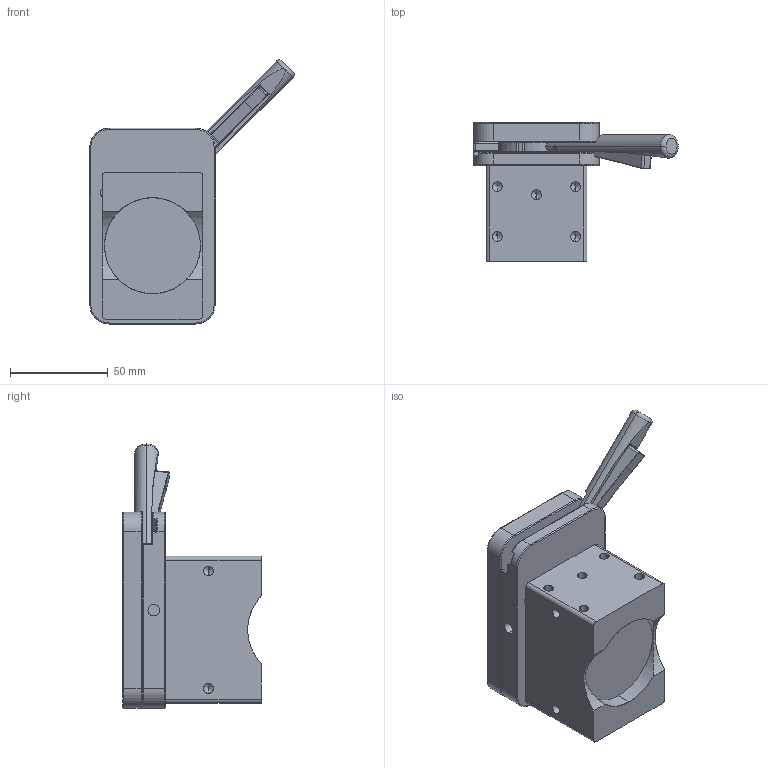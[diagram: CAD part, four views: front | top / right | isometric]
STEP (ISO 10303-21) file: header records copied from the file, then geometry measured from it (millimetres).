
FILE_DESCRIPTION (( 'STEP AP214' ), '1' );
FILE_NAME ('8100580_p.STEP', '2018-11-02T14:11:47', ( '' ), ( '' ), 'SwSTEP 2.0', 'SolidWorks 2018', '' );
FILE_SCHEMA (( 'AUTOMOTIVE_DESIGN' ));
Length unit declared in the file: millimetre
Products named in the file (2): 8100580_p
Bounding box: 104.34 x 70.9 x 134.84 mm (x, y, z)
Volume: 302122.6 mm3; surface area: 49627.8 mm2
Topology: 2 solids, 7 shells, 1095 faces, 2544 edges, 1462 vertices
Faces by surface type: cylinder 395, cone 308, plane 242, bspline 90, torus 50, sphere 10
Entity records: 52427 total; most frequent: CARTESIAN_POINT 16852, ORIENTED_EDGE 4996, DIRECTION 4746, EDGE_CURVE 2498, AXIS2_PLACEMENT_3D 1781, VERTEX_POINT 1462, VECTOR 1184, LINE 1184
